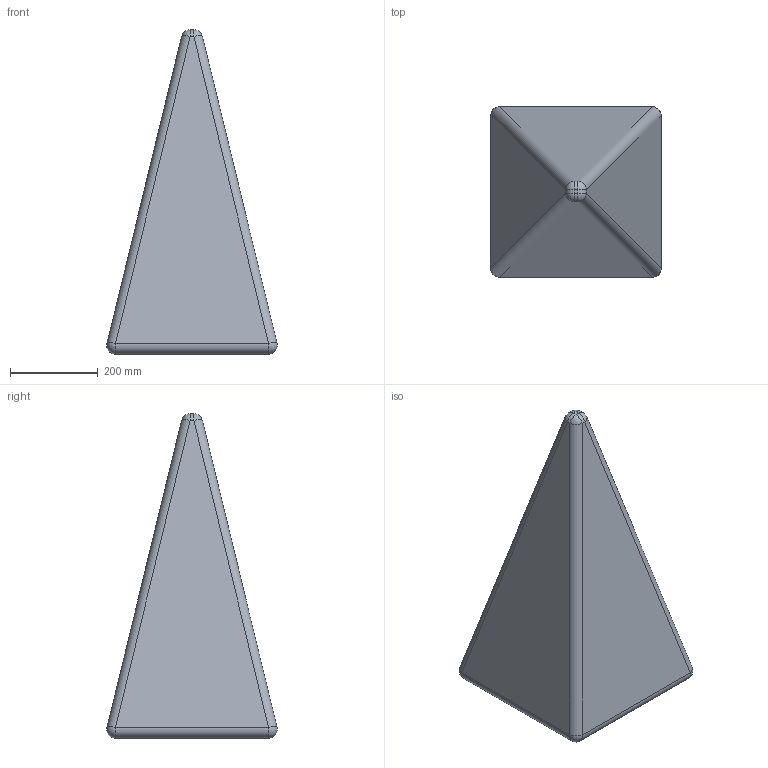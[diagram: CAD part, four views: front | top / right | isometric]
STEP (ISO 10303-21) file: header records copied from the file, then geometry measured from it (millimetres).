
FILE_DESCRIPTION(/* description */ (''),/* implementation_level */ '2;1');
FILE_NAME(/* name */ 'C:/Users/LukasGröber/GMS Cloud/Groeber Mannheim Lichtwerke - Dokumente/Marketing/Produkte/3D Daten/Pyramide/Pyramide 74.step',/* time_stamp */ '2022-07-08T12:37:20+02:00',/* author */ (''),/* organization */ (''),/* preprocessor_version */ 'ST-DEVELOPER v19',/* originating_system */ 'Autodesk Translation Framework v11.7.0.108',/* authorisation */ '');
FILE_SCHEMA (('AUTOMOTIVE_DESIGN { 1 0 10303 214 3 1 1 }'));
Length unit declared in the file: millimetre
Products named in the file (1): Pyramide 74
Bounding box: 388.99 x 388.99 x 740 mm (x, y, z)
Volume: 43342573.2 mm3; surface area: 783468.5 mm2
Topology: 1 solids, 1 shells, 26 faces, 48 edges, 24 vertices
Faces by surface type: cylinder 12, sphere 8, plane 6
Entity records: 664 total; most frequent: DIRECTION 126, CARTESIAN_POINT 99, ORIENTED_EDGE 96, AXIS2_PLACEMENT_3D 51, EDGE_CURVE 48, FACE_OUTER_BOUND 26, EDGE_LOOP 26, ADVANCED_FACE 26
